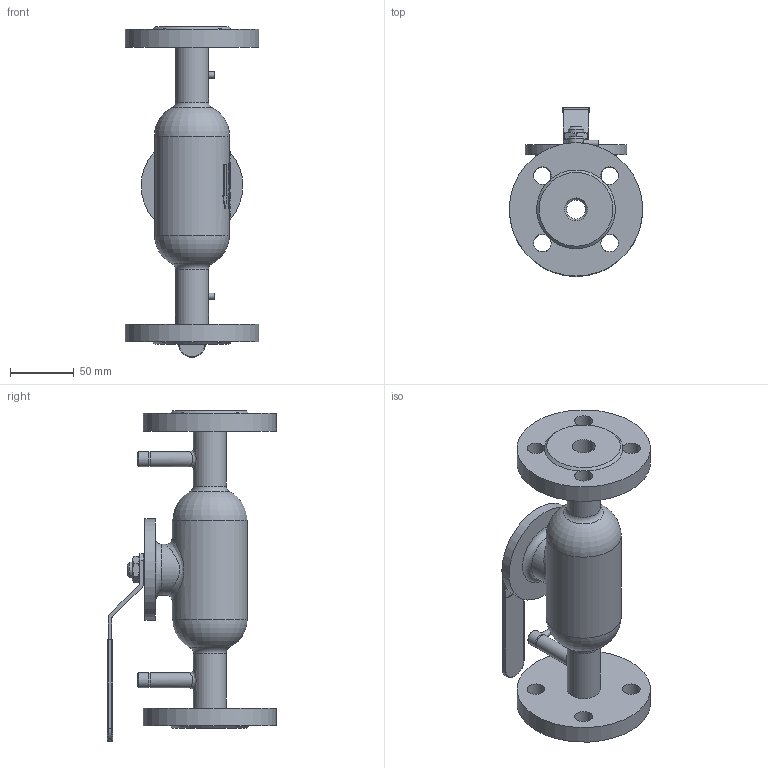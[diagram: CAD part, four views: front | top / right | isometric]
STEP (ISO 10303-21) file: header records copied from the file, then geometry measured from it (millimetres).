
FILE_DESCRIPTION(('STEP AP214'), '1');
FILE_NAME('BVR3232P-SP-F-H Êðàí øàðîâîé ðåãóëèðóþùèé DN.ru Äó20 Ðó40', '', ('UNSPECIFIED'), ('UNSPECIFIED'), 'C3D Converter', 'C3D Toolkit', '');
FILE_SCHEMA(('AUTOMOTIVE_DESIGN { 1 0 10303 214 3 1 1}'));
Length unit declared in the file: millimetre
Products named in the file (1): BVR3232P-SP-F-H 
Bounding box: 105 x 133 x 260 mm (x, y, z)
Volume: 611827.8 mm3; surface area: 114103.3 mm2
Topology: 1 solids, 1 shells, 700 faces, 1818 edges, 1205 vertices
Faces by surface type: plane 336, bspline 175, cylinder 87, extrusion 82, cone 11, torus 9
Full cylindrical faces by diameter (mm): 2.5 x2, 5 x2, 12 x6, 14 x8, 15 x1, 18 x2, 26 x2, 40 x1, 59 x1, 76 x1, 80 x1, 105 x2
Entity records: 74802 total; most frequent: CARTESIAN_POINT 58169, ORIENTED_EDGE 3538, DIRECTION 2333, EDGE_CURVE 1769, VERTEX_POINT 1205, VECTOR 923, EDGE_LOOP 852, LINE 841
